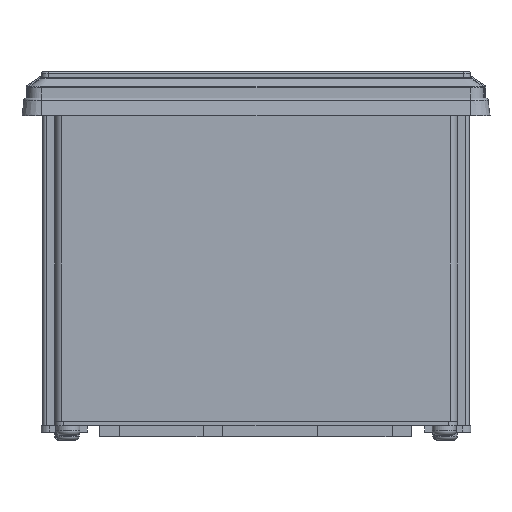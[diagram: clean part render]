
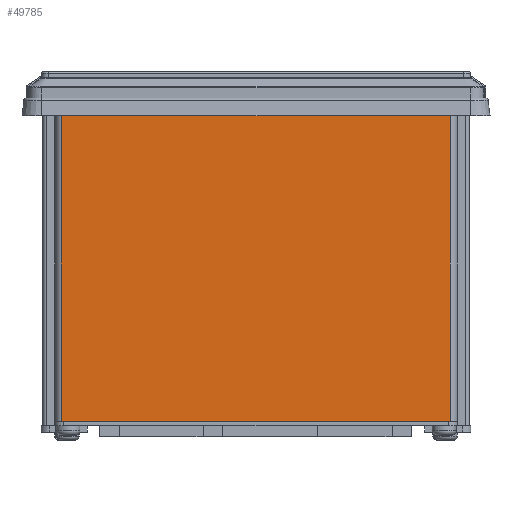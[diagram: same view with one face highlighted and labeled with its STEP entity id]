
A CAD part, front view. The second image highlights one B-rep face of the part: STEP entity #49785.
In plain terms, the highlighted planar face has unit normal (0, -1, 0).
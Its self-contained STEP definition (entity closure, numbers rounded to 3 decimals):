
#118 = FACE_OUTER_BOUND ( 'NONE', #30661, .T. ) ;
#2624 = CARTESIAN_POINT ( 'NONE',  ( -90.903, -44.999, 0. ) ) ;
#3296 = EDGE_CURVE ( 'NONE', #13008, #7466, #47440, .T. ) ;
#4134 = AXIS2_PLACEMENT_3D ( 'NONE', #25398, #41032, #24857 ) ;
#4592 = ORIENTED_EDGE ( 'NONE', *, *, #29184, .T. ) ;
#6596 = CARTESIAN_POINT ( 'NONE',  ( -90.903, -44.999, -72.4 ) ) ;
#7466 = VERTEX_POINT ( 'NONE', #20894 ) ;
#9406 = ORIENTED_EDGE ( 'NONE', *, *, #3296, .F. ) ;
#10070 = VERTEX_POINT ( 'NONE', #6596 ) ;
#12232 = VERTEX_POINT ( 'NONE', #35854 ) ;
#13008 = VERTEX_POINT ( 'NONE', #2624 ) ;
#14348 = CARTESIAN_POINT ( 'NONE',  ( -1.931, -44.999, -72.4 ) ) ;
#15398 = DIRECTION ( 'NONE',  ( 0., 0., 1. ) ) ;
#16968 = ORIENTED_EDGE ( 'NONE', *, *, #29180, .T. ) ;
#18038 = VECTOR ( 'NONE', #52723, 1000. ) ;
#18359 = CARTESIAN_POINT ( 'NONE',  ( -1.931, -44.999, 0. ) ) ;
#20165 = VECTOR ( 'NONE', #51230, 1000. ) ;
#20894 = CARTESIAN_POINT ( 'NONE',  ( -1.931, -44.999, 0. ) ) ;
#24857 = DIRECTION ( 'NONE',  ( 0., 0., -1. ) ) ;
#25398 = CARTESIAN_POINT ( 'NONE',  ( -1.931, -44.999, -72.4 ) ) ;
#26446 = LINE ( 'NONE', #14348, #47705 ) ;
#28818 = ORIENTED_EDGE ( 'NONE', *, *, #43130, .F. ) ;
#29180 = EDGE_CURVE ( 'NONE', #10070, #12232, #38596, .T. ) ;
#29184 = EDGE_CURVE ( 'NONE', #12232, #7466, #26446, .T. ) ;
#30661 = EDGE_LOOP ( 'NONE', ( #9406, #28818, #16968, #4592 ) ) ;
#35854 = CARTESIAN_POINT ( 'NONE',  ( -1.931, -44.999, -72.4 ) ) ;
#35867 = CARTESIAN_POINT ( 'NONE',  ( -90.903, -44.999, -72.4 ) ) ;
#38596 = LINE ( 'NONE', #47466, #20165 ) ;
#41032 = DIRECTION ( 'NONE',  ( 0., -1., 0. ) ) ;
#43130 = EDGE_CURVE ( 'NONE', #10070, #13008, #46383, .T. ) ;
#44655 = VECTOR ( 'NONE', #15398, 1000. ) ;
#45072 = PLANE ( 'NONE',  #4134 ) ;
#46383 = LINE ( 'NONE', #35867, #44655 ) ;
#46402 = DIRECTION ( 'NONE',  ( 0., 0., 1. ) ) ;
#47440 = LINE ( 'NONE', #18359, #18038 ) ;
#47466 = CARTESIAN_POINT ( 'NONE',  ( -1.931, -44.999, -72.4 ) ) ;
#47705 = VECTOR ( 'NONE', #46402, 1000. ) ;
#49785 = ADVANCED_FACE ( 'NONE', ( #118 ), #45072, .T. ) ;
#51230 = DIRECTION ( 'NONE',  ( 1., 0., 0. ) ) ;
#52723 = DIRECTION ( 'NONE',  ( 1., 0., 0. ) ) ;
